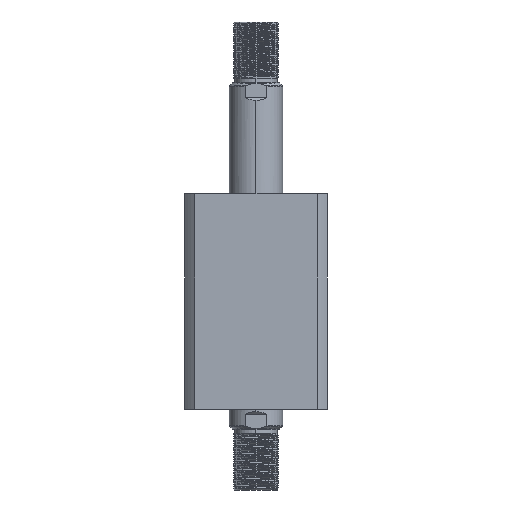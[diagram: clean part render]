
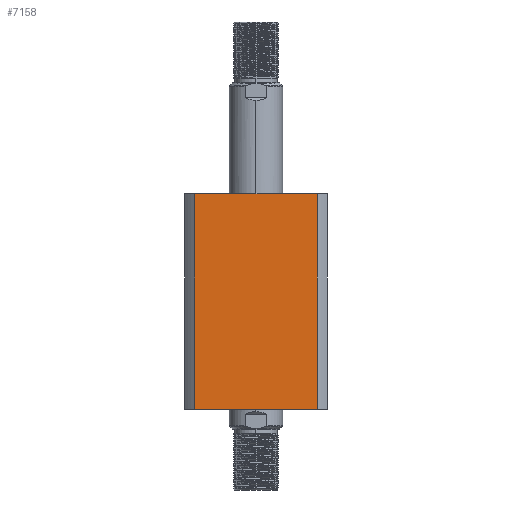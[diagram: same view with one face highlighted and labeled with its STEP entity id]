
A CAD part, left-side view. The second image highlights one B-rep face of the part: STEP entity #7158.
In plain terms, the highlighted planar face has unit normal (-1, 0, 0).
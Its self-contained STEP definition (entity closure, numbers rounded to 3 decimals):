
#1735 = VERTEX_POINT ( 'NONE', #4426 ) ;
#1858 = CARTESIAN_POINT ( 'NONE',  ( -47., 40.435, 142. ) ) ;
#3208 = LINE ( 'NONE', #14633, #6887 ) ;
#3494 = AXIS2_PLACEMENT_3D ( 'NONE', #15360, #11166, #26079 ) ;
#4049 = CARTESIAN_POINT ( 'NONE',  ( -47., -40.435, 300. ) ) ;
#4329 = CARTESIAN_POINT ( 'NONE',  ( -47., -40.435, 0. ) ) ;
#4426 = CARTESIAN_POINT ( 'NONE',  ( -47., 40.435, 0. ) ) ;
#4741 = EDGE_CURVE ( 'NONE', #6938, #5642, #21689, .T. ) ;
#5642 = VERTEX_POINT ( 'NONE', #4329 ) ;
#6887 = VECTOR ( 'NONE', #27416, 1000. ) ;
#6938 = VERTEX_POINT ( 'NONE', #25703 ) ;
#7158 = ADVANCED_FACE ( 'NONE', ( #19637 ), #23950, .F. ) ;
#7682 = VERTEX_POINT ( 'NONE', #1858 ) ;
#7940 = LINE ( 'NONE', #15358, #17926 ) ;
#7957 = EDGE_CURVE ( 'NONE', #7682, #6938, #7940, .T. ) ;
#9399 = ORIENTED_EDGE ( 'NONE', *, *, #4741, .F. ) ;
#11166 = DIRECTION ( 'NONE',  ( 1., 0., 0. ) ) ;
#12591 = EDGE_CURVE ( 'NONE', #1735, #7682, #24284, .T. ) ;
#13066 = EDGE_LOOP ( 'NONE', ( #9399, #22863, #19366, #16072 ) ) ;
#13815 = CARTESIAN_POINT ( 'NONE',  ( -47., 40.435, 300. ) ) ;
#14633 = CARTESIAN_POINT ( 'NONE',  ( -47., 47., 0. ) ) ;
#15358 = CARTESIAN_POINT ( 'NONE',  ( -47., 47., 142. ) ) ;
#15360 = CARTESIAN_POINT ( 'NONE',  ( -47., 47., 142. ) ) ;
#15976 = VECTOR ( 'NONE', #21295, 1000. ) ;
#16072 = ORIENTED_EDGE ( 'NONE', *, *, #24701, .T. ) ;
#17497 = DIRECTION ( 'NONE',  ( 0., -1., 0. ) ) ;
#17926 = VECTOR ( 'NONE', #17497, 1000. ) ;
#19366 = ORIENTED_EDGE ( 'NONE', *, *, #12591, .F. ) ;
#19637 = FACE_OUTER_BOUND ( 'NONE', #13066, .T. ) ;
#21295 = DIRECTION ( 'NONE',  ( 0., 0., -1. ) ) ;
#21689 = LINE ( 'NONE', #4049, #15976 ) ;
#22863 = ORIENTED_EDGE ( 'NONE', *, *, #7957, .F. ) ;
#23950 = PLANE ( 'NONE',  #3494 ) ;
#24284 = LINE ( 'NONE', #13815, #25598 ) ;
#24701 = EDGE_CURVE ( 'NONE', #1735, #5642, #3208, .T. ) ;
#25598 = VECTOR ( 'NONE', #26605, 1000. ) ;
#25703 = CARTESIAN_POINT ( 'NONE',  ( -47., -40.435, 142. ) ) ;
#26079 = DIRECTION ( 'NONE',  ( 0., 1., 0. ) ) ;
#26605 = DIRECTION ( 'NONE',  ( 0., 0., 1. ) ) ;
#27416 = DIRECTION ( 'NONE',  ( 0., -1., 0. ) ) ;
